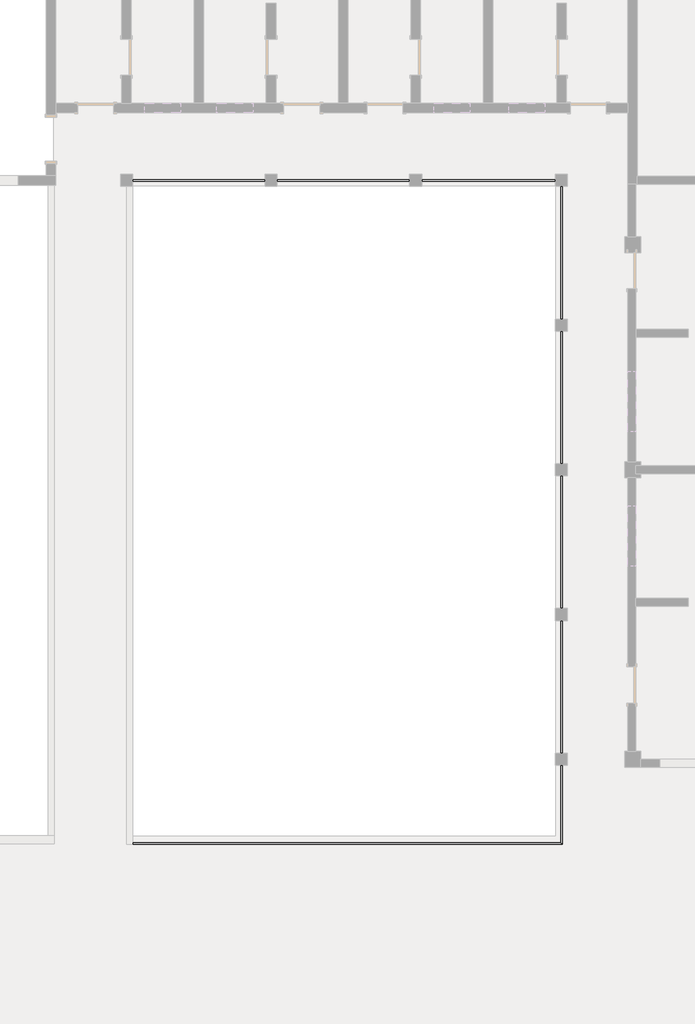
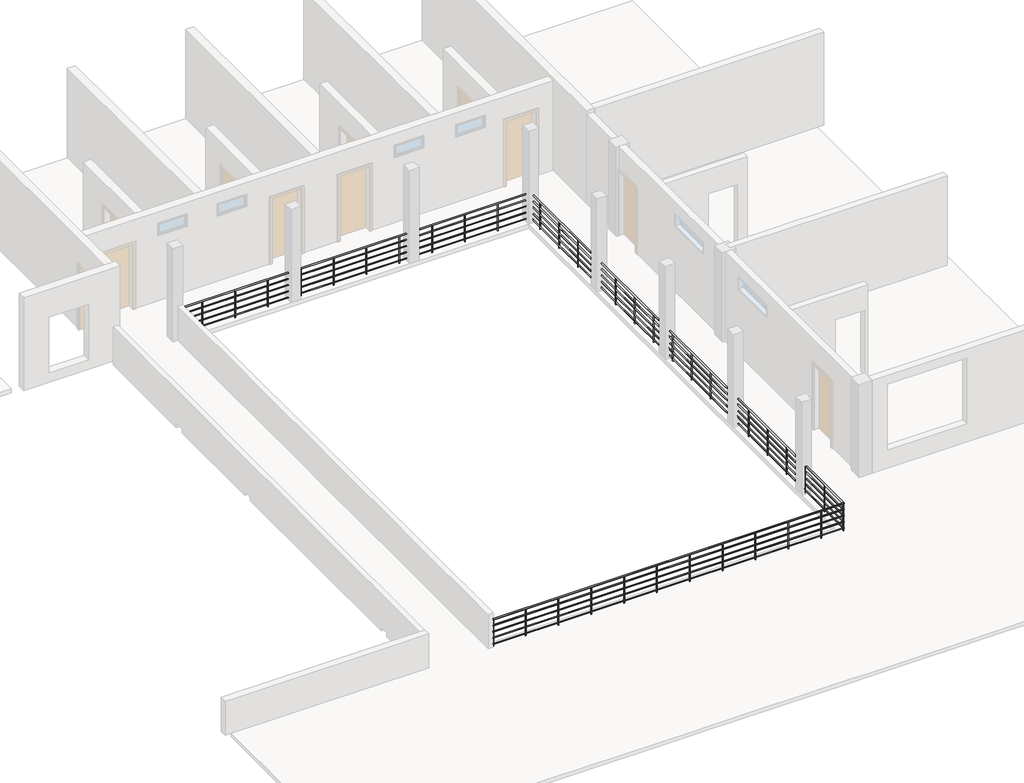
# One storey, part 3 of 3: 1 railing.
"""IFC4 building model written with IfcOpenShell, lengths in millimetres."""

from ifc_helpers import new_model, si_unit, point, frame, frame_2d, origin, place, context, project, spatial, circle_curve, ellipse_curve, trimmed, segment, composite_curve, outline, extrude, element, save
from ifc_brep_helpers import plane_surface, cylinder_surface, advanced_brep

model = new_model("IFC4")

# Units and contexts
model_context = context("Model", 3, world=origin())
ifc_project = project(units=[si_unit("LENGTHUNIT", "METRE", prefix="MILLI")], contexts=[model_context])

# Site, building, storey
site = spatial("IfcSite", under=ifc_project)
building = spatial("IfcBuilding", under=site)
storey = spatial("IfcBuildingStorey", under=building, Name="标高 2", Elevation=4200.0)

# Railing
placement = place(None, origin())
element("IfcRailing", 1, ObjectType="900mm 圆管", at=placement, inside=storey, context=model_context, shape_type="SolidModel", body=[
    advanced_brep(
    [(-913.2622628, 524.1658649, 5080.0), (-913.2622628, 564.1658649, 5080.0), (9786.7377372, 524.1658649, 5080.0), (9746.7377372, 564.1658649, 5080.0), (9786.7377372, 17064.1658649, 5080.0), (9746.7377372, 17024.1658649, 5080.0), (-913.2622628, 17064.1658649, 5080.0), (-913.2622628, 17024.1658649, 5080.0)],
    [
        (0, 1, circle_curve(frame((-913.2622628, 544.1658649, 5080.0), z_axis=(-1.0, 0.0, 0.0), x_axis=(0.0, 1.0, 0.0)), 20.0)),
        (1, 0, circle_curve(frame((-913.2622628, 544.1658649, 5080.0), z_axis=(-1.0, 0.0, 0.0), x_axis=(0.0, 1.0, 0.0)), 20.0)),
        (0, 2),
        (2, 3, ellipse_curve(frame((9766.7377372, 544.1658649, 5080.0), z_axis=(-0.7071067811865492, -0.7071067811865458, 0.0), x_axis=(-0.7071067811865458, 0.7071067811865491, 0.0)), 28.2842712, 20.0)),
        (3, 1),
        (3, 2, ellipse_curve(frame((9766.7377372, 544.1658649, 5080.0), z_axis=(-0.7071067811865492, -0.7071067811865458, 0.0), x_axis=(-0.7071067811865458, 0.7071067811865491, 0.0)), 28.2842712, 20.0)),
        (2, 4),
        (4, 5, ellipse_curve(frame((9766.7377372, 17044.1658649, 5080.0), z_axis=(0.7071067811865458, -0.7071067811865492, 0.0), x_axis=(-0.7071067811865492, -0.7071067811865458, 0.0)), 28.2842712, 20.0)),
        (5, 3),
        (5, 4, ellipse_curve(frame((9766.7377372, 17044.1658649, 5080.0), z_axis=(0.7071067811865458, -0.7071067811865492, 0.0), x_axis=(-0.7071067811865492, -0.7071067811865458, 0.0)), 28.2842712, 20.0)),
        (6, 7, circle_curve(frame((-913.2622628, 17044.1658649, 5080.0), z_axis=(-1.0, 0.0, 0.0), x_axis=(0.0, -1.0, 0.0)), 20.0)),
        (7, 6, circle_curve(frame((-913.2622628, 17044.1658649, 5080.0), z_axis=(-1.0, 0.0, 0.0), x_axis=(0.0, -1.0, 0.0)), 20.0)),
        (4, 6),
        (7, 5),
    ],
    [
        plane_surface(frame((-913.2622628, 544.1658649, 5100.0), z_axis=(-1.0, 0.0, 0.0), x_axis=(0.0, 1.0, 0.0))),
        cylinder_surface(frame((-913.2622628, 544.1658649, 5080.0), z_axis=(-1.0, 0.0, 0.0), x_axis=(0.0, 1.0, 0.0)), 20.0),
        cylinder_surface(frame((9766.7377372, 544.1658649, 5080.0), z_axis=(0.0, -1.0, 0.0), x_axis=(-1.0, 0.0, 0.0)), 20.0),
        plane_surface(frame((-913.2622628, 17044.1658649, 5100.0), z_axis=(-1.0, 0.0, 0.0), x_axis=(0.0, -1.0, 0.0))),
        cylinder_surface(frame((9766.7377372, 17044.1658649, 5080.0), z_axis=(1.0, 0.0, 0.0), x_axis=(0.0, -1.0, 0.0)), 20.0),
    ],
    [
        (0, [[1, 2]]),
        (1, [[-1, 3, 4, 5]]),
        (1, [[-2, -5, 6, -3]]),
        (2, [[-4, 7, 8, 9]]),
        (2, [[-6, -9, 10, -7]]),
        (3, [[11, 12]]),
        (4, [[-8, 13, -12, 14]]),
        (4, [[-10, -14, -11, -13]]),
    ],
),
    advanced_brep(
    [(-913.2622628, 559.1658649, 4885.0), (-913.2622628, 529.1658649, 4885.0), (9751.7377372, 559.1658649, 4885.0), (9781.7377372, 529.1658649, 4885.0), (9751.7377372, 17029.1658649, 4885.0), (9781.7377372, 17059.1658649, 4885.0), (-913.2622628, 17029.1658649, 4885.0), (-913.2622628, 17059.1658649, 4885.0)],
    [
        (0, 1, circle_curve(frame((-913.2622628, 544.1658649, 4885.0), z_axis=(-1.0, 0.0, 0.0), x_axis=(0.0, -1.0, 0.0)), 15.0)),
        (1, 0, circle_curve(frame((-913.2622628, 544.1658649, 4885.0), z_axis=(-1.0, 0.0, 0.0), x_axis=(0.0, -1.0, 0.0)), 15.0)),
        (0, 2),
        (2, 3, ellipse_curve(frame((9766.7377372, 544.1658649, 4885.0), z_axis=(-0.7071067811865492, -0.7071067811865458, 0.0), x_axis=(-0.7071067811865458, 0.7071067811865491, 0.0)), 21.2132034, 15.0)),
        (3, 1),
        (3, 2, ellipse_curve(frame((9766.7377372, 544.1658649, 4885.0), z_axis=(-0.7071067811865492, -0.7071067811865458, 0.0), x_axis=(-0.7071067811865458, 0.7071067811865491, 0.0)), 21.2132034, 15.0)),
        (2, 4),
        (4, 5, ellipse_curve(frame((9766.7377372, 17044.1658649, 4885.0), z_axis=(0.7071067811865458, -0.7071067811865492, 0.0), x_axis=(-0.7071067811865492, -0.7071067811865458, 0.0)), 21.2132034, 15.0)),
        (5, 3),
        (5, 4, ellipse_curve(frame((9766.7377372, 17044.1658649, 4885.0), z_axis=(0.7071067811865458, -0.7071067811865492, 0.0), x_axis=(-0.7071067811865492, -0.7071067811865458, 0.0)), 21.2132034, 15.0)),
        (6, 7, circle_curve(frame((-913.2622628, 17044.1658649, 4885.0), z_axis=(-1.0, 0.0, 0.0), x_axis=(0.0, 1.0, 0.0)), 15.0)),
        (7, 6, circle_curve(frame((-913.2622628, 17044.1658649, 4885.0), z_axis=(-1.0, 0.0, 0.0), x_axis=(0.0, 1.0, 0.0)), 15.0)),
        (4, 6),
        (7, 5),
    ],
    [
        plane_surface(frame((-913.2622628, 544.1658649, 4900.0), z_axis=(-1.0, 0.0, 0.0), x_axis=(0.0, 1.0, 0.0))),
        cylinder_surface(frame((-913.2622628, 544.1658649, 4885.0), z_axis=(-1.0, 0.0, 0.0), x_axis=(0.0, -1.0, 0.0)), 15.0),
        cylinder_surface(frame((9766.7377372, 544.1658649, 4885.0), z_axis=(0.0, -1.0, 0.0), x_axis=(1.0, 0.0, 0.0)), 15.0),
        plane_surface(frame((-913.2622628, 17044.1658649, 4900.0), z_axis=(-1.0, 0.0, 0.0), x_axis=(0.0, -1.0, 0.0))),
        cylinder_surface(frame((9766.7377372, 17044.1658649, 4885.0), z_axis=(1.0, 0.0, 0.0), x_axis=(0.0, 1.0, 0.0)), 15.0),
    ],
    [
        (0, [[1, 2]]),
        (1, [[-1, 3, 4, 5]]),
        (1, [[-2, -5, 6, -3]]),
        (2, [[-4, 7, 8, 9]]),
        (2, [[-6, -9, 10, -7]]),
        (3, [[11, 12]]),
        (4, [[-8, 13, -12, 14]]),
        (4, [[-10, -14, -11, -13]]),
    ],
),
    advanced_brep(
    [(-913.2622628, 559.1658649, 4685.0), (-913.2622628, 529.1658649, 4685.0), (9751.7377372, 559.1658649, 4685.0), (9781.7377372, 529.1658649, 4685.0), (9751.7377372, 17029.1658649, 4685.0), (9781.7377372, 17059.1658649, 4685.0), (-913.2622628, 17029.1658649, 4685.0), (-913.2622628, 17059.1658649, 4685.0)],
    [
        (0, 1, circle_curve(frame((-913.2622628, 544.1658649, 4685.0), z_axis=(-1.0, 0.0, 0.0), x_axis=(0.0, -1.0, 0.0)), 15.0)),
        (1, 0, circle_curve(frame((-913.2622628, 544.1658649, 4685.0), z_axis=(-1.0, 0.0, 0.0), x_axis=(0.0, -1.0, 0.0)), 15.0)),
        (0, 2),
        (2, 3, ellipse_curve(frame((9766.7377372, 544.1658649, 4685.0), z_axis=(-0.7071067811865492, -0.7071067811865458, 0.0), x_axis=(-0.7071067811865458, 0.7071067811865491, 0.0)), 21.2132034, 15.0)),
        (3, 1),
        (3, 2, ellipse_curve(frame((9766.7377372, 544.1658649, 4685.0), z_axis=(-0.7071067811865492, -0.7071067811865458, 0.0), x_axis=(-0.7071067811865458, 0.7071067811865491, 0.0)), 21.2132034, 15.0)),
        (2, 4),
        (4, 5, ellipse_curve(frame((9766.7377372, 17044.1658649, 4685.0), z_axis=(0.7071067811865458, -0.7071067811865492, 0.0), x_axis=(-0.7071067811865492, -0.7071067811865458, 0.0)), 21.2132034, 15.0)),
        (5, 3),
        (5, 4, ellipse_curve(frame((9766.7377372, 17044.1658649, 4685.0), z_axis=(0.7071067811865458, -0.7071067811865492, 0.0), x_axis=(-0.7071067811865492, -0.7071067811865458, 0.0)), 21.2132034, 15.0)),
        (6, 7, circle_curve(frame((-913.2622628, 17044.1658649, 4685.0), z_axis=(-1.0, 0.0, 0.0), x_axis=(0.0, 1.0, 0.0)), 15.0)),
        (7, 6, circle_curve(frame((-913.2622628, 17044.1658649, 4685.0), z_axis=(-1.0, 0.0, 0.0), x_axis=(0.0, 1.0, 0.0)), 15.0)),
        (4, 6),
        (7, 5),
    ],
    [
        plane_surface(frame((-913.2622628, 544.1658649, 4700.0), z_axis=(-1.0, 0.0, 0.0), x_axis=(0.0, 1.0, 0.0))),
        cylinder_surface(frame((-913.2622628, 544.1658649, 4685.0), z_axis=(-1.0, 0.0, 0.0), x_axis=(0.0, -1.0, 0.0)), 15.0),
        cylinder_surface(frame((9766.7377372, 544.1658649, 4685.0), z_axis=(0.0, -1.0, 0.0), x_axis=(1.0, 0.0, 0.0)), 15.0),
        plane_surface(frame((-913.2622628, 17044.1658649, 4700.0), z_axis=(-1.0, 0.0, 0.0), x_axis=(0.0, -1.0, 0.0))),
        cylinder_surface(frame((9766.7377372, 17044.1658649, 4685.0), z_axis=(1.0, 0.0, 0.0), x_axis=(0.0, 1.0, 0.0)), 15.0),
    ],
    [
        (0, [[1, 2]]),
        (1, [[-1, 3, 4, 5]]),
        (1, [[-2, -5, 6, -3]]),
        (2, [[-4, 7, 8, 9]]),
        (2, [[-6, -9, 10, -7]]),
        (3, [[11, 12]]),
        (4, [[-8, 13, -12, 14]]),
        (4, [[-10, -14, -11, -13]]),
    ],
),
    advanced_brep(
    [(-913.2622628, 559.1658649, 4485.0), (-913.2622628, 529.1658649, 4485.0), (9751.7377372, 559.1658649, 4485.0), (9781.7377372, 529.1658649, 4485.0), (9751.7377372, 17029.1658649, 4485.0), (9781.7377372, 17059.1658649, 4485.0), (-913.2622628, 17029.1658649, 4485.0), (-913.2622628, 17059.1658649, 4485.0)],
    [
        (0, 1, circle_curve(frame((-913.2622628, 544.1658649, 4485.0), z_axis=(-1.0, 0.0, 0.0), x_axis=(0.0, -1.0, 0.0)), 15.0)),
        (1, 0, circle_curve(frame((-913.2622628, 544.1658649, 4485.0), z_axis=(-1.0, 0.0, 0.0), x_axis=(0.0, -1.0, 0.0)), 15.0)),
        (0, 2),
        (2, 3, ellipse_curve(frame((9766.7377372, 544.1658649, 4485.0), z_axis=(-0.7071067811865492, -0.7071067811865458, 0.0), x_axis=(-0.7071067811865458, 0.7071067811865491, 0.0)), 21.2132034, 15.0)),
        (3, 1),
        (3, 2, ellipse_curve(frame((9766.7377372, 544.1658649, 4485.0), z_axis=(-0.7071067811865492, -0.7071067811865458, 0.0), x_axis=(-0.7071067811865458, 0.7071067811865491, 0.0)), 21.2132034, 15.0)),
        (2, 4),
        (4, 5, ellipse_curve(frame((9766.7377372, 17044.1658649, 4485.0), z_axis=(0.7071067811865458, -0.7071067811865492, 0.0), x_axis=(-0.7071067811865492, -0.7071067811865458, 0.0)), 21.2132034, 15.0)),
        (5, 3),
        (5, 4, ellipse_curve(frame((9766.7377372, 17044.1658649, 4485.0), z_axis=(0.7071067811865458, -0.7071067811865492, 0.0), x_axis=(-0.7071067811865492, -0.7071067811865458, 0.0)), 21.2132034, 15.0)),
        (6, 7, circle_curve(frame((-913.2622628, 17044.1658649, 4485.0), z_axis=(-1.0, 0.0, 0.0), x_axis=(0.0, 1.0, 0.0)), 15.0)),
        (7, 6, circle_curve(frame((-913.2622628, 17044.1658649, 4485.0), z_axis=(-1.0, 0.0, 0.0), x_axis=(0.0, 1.0, 0.0)), 15.0)),
        (4, 6),
        (7, 5),
    ],
    [
        plane_surface(frame((-913.2622628, 544.1658649, 4500.0), z_axis=(-1.0, 0.0, 0.0), x_axis=(0.0, 1.0, 0.0))),
        cylinder_surface(frame((-913.2622628, 544.1658649, 4485.0), z_axis=(-1.0, 0.0, 0.0), x_axis=(0.0, -1.0, 0.0)), 15.0),
        cylinder_surface(frame((9766.7377372, 544.1658649, 4485.0), z_axis=(0.0, -1.0, 0.0), x_axis=(1.0, 0.0, 0.0)), 15.0),
        plane_surface(frame((-913.2622628, 17044.1658649, 4500.0), z_axis=(-1.0, 0.0, 0.0), x_axis=(0.0, -1.0, 0.0))),
        cylinder_surface(frame((9766.7377372, 17044.1658649, 4485.0), z_axis=(1.0, 0.0, 0.0), x_axis=(0.0, 1.0, 0.0)), 15.0),
    ],
    [
        (0, [[1, 2]]),
        (1, [[-1, 3, 4, 5]]),
        (1, [[-2, -5, 6, -3]]),
        (2, [[-4, 7, 8, 9]]),
        (2, [[-6, -9, 10, -7]]),
        (3, [[11, 12]]),
        (4, [[-8, 13, -12, 14]]),
        (4, [[-10, -14, -11, -13]]),
    ],
),
    advanced_brep(
    [(-913.2622628, 559.1658649, 4285.0), (-913.2622628, 529.1658649, 4285.0), (9751.7377372, 559.1658649, 4285.0), (9781.7377372, 529.1658649, 4285.0), (9751.7377372, 17029.1658649, 4285.0), (9781.7377372, 17059.1658649, 4285.0), (-913.2622628, 17029.1658649, 4285.0), (-913.2622628, 17059.1658649, 4285.0)],
    [
        (0, 1, circle_curve(frame((-913.2622628, 544.1658649, 4285.0), z_axis=(-1.0, 0.0, 0.0), x_axis=(0.0, -1.0, 0.0)), 15.0)),
        (1, 0, circle_curve(frame((-913.2622628, 544.1658649, 4285.0), z_axis=(-1.0, 0.0, 0.0), x_axis=(0.0, -1.0, 0.0)), 15.0)),
        (0, 2),
        (2, 3, ellipse_curve(frame((9766.7377372, 544.1658649, 4285.0), z_axis=(-0.7071067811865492, -0.7071067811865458, 0.0), x_axis=(-0.7071067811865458, 0.7071067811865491, 0.0)), 21.2132034, 15.0)),
        (3, 1),
        (3, 2, ellipse_curve(frame((9766.7377372, 544.1658649, 4285.0), z_axis=(-0.7071067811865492, -0.7071067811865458, 0.0), x_axis=(-0.7071067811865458, 0.7071067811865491, 0.0)), 21.2132034, 15.0)),
        (2, 4),
        (4, 5, ellipse_curve(frame((9766.7377372, 17044.1658649, 4285.0), z_axis=(0.7071067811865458, -0.7071067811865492, 0.0), x_axis=(-0.7071067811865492, -0.7071067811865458, 0.0)), 21.2132034, 15.0)),
        (5, 3),
        (5, 4, ellipse_curve(frame((9766.7377372, 17044.1658649, 4285.0), z_axis=(0.7071067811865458, -0.7071067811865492, 0.0), x_axis=(-0.7071067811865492, -0.7071067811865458, 0.0)), 21.2132034, 15.0)),
        (6, 7, circle_curve(frame((-913.2622628, 17044.1658649, 4285.0), z_axis=(-1.0, 0.0, 0.0), x_axis=(0.0, 1.0, 0.0)), 15.0)),
        (7, 6, circle_curve(frame((-913.2622628, 17044.1658649, 4285.0), z_axis=(-1.0, 0.0, 0.0), x_axis=(0.0, 1.0, 0.0)), 15.0)),
        (4, 6),
        (7, 5),
    ],
    [
        plane_surface(frame((-913.2622628, 544.1658649, 4300.0), z_axis=(-1.0, 0.0, 0.0), x_axis=(0.0, 1.0, 0.0))),
        cylinder_surface(frame((-913.2622628, 544.1658649, 4285.0), z_axis=(-1.0, 0.0, 0.0), x_axis=(0.0, -1.0, 0.0)), 15.0),
        cylinder_surface(frame((9766.7377372, 544.1658649, 4285.0), z_axis=(0.0, -1.0, 0.0), x_axis=(1.0, 0.0, 0.0)), 15.0),
        plane_surface(frame((-913.2622628, 17044.1658649, 4300.0), z_axis=(-1.0, 0.0, 0.0), x_axis=(0.0, -1.0, 0.0))),
        cylinder_surface(frame((9766.7377372, 17044.1658649, 4285.0), z_axis=(1.0, 0.0, 0.0), x_axis=(0.0, 1.0, 0.0)), 15.0),
    ],
    [
        (0, [[1, 2]]),
        (1, [[-1, 3, 4, 5]]),
        (1, [[-2, -5, 6, -3]]),
        (2, [[-4, 7, 8, 9]]),
        (2, [[-6, -9, 10, -7]]),
        (3, [[11, 12]]),
        (4, [[-8, 13, -12, 14]]),
        (4, [[-10, -14, -11, -13]]),
    ],
),
    extrude(outline(composite_curve([segment(trimmed(circle_curve(frame_2d((-233.2622628, 17044.1658649)), 12.5), [point((-233.2622628, 17031.6658649))], [point((-233.2622628, 17056.6658649))], False, "CARTESIAN"), True, "CONTINUOUS"), segment(trimmed(circle_curve(frame_2d((-233.2622628, 17044.1658649)), 12.5), [point((-233.2622628, 17056.6658649))], [point((-233.2622628, 17031.6658649))], False, "CARTESIAN"), True, "CONTINUOUS")], self_intersect=False)), frame((0.0, 0.0, 4200.0), z_axis=(0.0, 0.0, 1.0), x_axis=(1.0, 0.0, 0.0)), (0.0, 0.0, 1.0), 860.0),
    extrude(outline(composite_curve([segment(trimmed(circle_curve(frame_2d((766.7377372, 17044.1658649)), 12.5), [point((766.7377372, 17031.6658649))], [point((766.7377372, 17056.6658649))], False, "CARTESIAN"), True, "CONTINUOUS"), segment(trimmed(circle_curve(frame_2d((766.7377372, 17044.1658649)), 12.5), [point((766.7377372, 17056.6658649))], [point((766.7377372, 17031.6658649))], False, "CARTESIAN"), True, "CONTINUOUS")], self_intersect=False)), frame((0.0, 0.0, 4200.0), z_axis=(0.0, 0.0, 1.0), x_axis=(1.0, 0.0, 0.0)), (0.0, 0.0, 1.0), 860.0),
    extrude(outline(composite_curve([segment(trimmed(circle_curve(frame_2d((1766.7377372, 17044.1658649)), 12.5), [point((1766.7377372, 17031.6658649))], [point((1766.7377372, 17056.6658649))], False, "CARTESIAN"), True, "CONTINUOUS"), segment(trimmed(circle_curve(frame_2d((1766.7377372, 17044.1658649)), 12.5), [point((1766.7377372, 17056.6658649))], [point((1766.7377372, 17031.6658649))], False, "CARTESIAN"), True, "CONTINUOUS")], self_intersect=False)), frame((0.0, 0.0, 4200.0), z_axis=(0.0, 0.0, 1.0), x_axis=(1.0, 0.0, 0.0)), (0.0, 0.0, 1.0), 860.0),
    extrude(outline(composite_curve([segment(trimmed(circle_curve(frame_2d((2766.7377372, 17044.1658649)), 12.5), [point((2766.7377372, 17031.6658649))], [point((2766.7377372, 17056.6658649))], False, "CARTESIAN"), True, "CONTINUOUS"), segment(trimmed(circle_curve(frame_2d((2766.7377372, 17044.1658649)), 12.5), [point((2766.7377372, 17056.6658649))], [point((2766.7377372, 17031.6658649))], False, "CARTESIAN"), True, "CONTINUOUS")], self_intersect=False)), frame((0.0, 0.0, 4200.0), z_axis=(0.0, 0.0, 1.0), x_axis=(1.0, 0.0, 0.0)), (0.0, 0.0, 1.0), 860.0),
    extrude(outline(composite_curve([segment(trimmed(circle_curve(frame_2d((3766.7377372, 17044.1658649)), 12.5), [point((3766.7377372, 17031.6658649))], [point((3766.7377372, 17056.6658649))], False, "CARTESIAN"), True, "CONTINUOUS"), segment(trimmed(circle_curve(frame_2d((3766.7377372, 17044.1658649)), 12.5), [point((3766.7377372, 17056.6658649))], [point((3766.7377372, 17031.6658649))], False, "CARTESIAN"), True, "CONTINUOUS")], self_intersect=False)), frame((0.0, 0.0, 4200.0), z_axis=(0.0, 0.0, 1.0), x_axis=(1.0, 0.0, 0.0)), (0.0, 0.0, 1.0), 860.0),
    extrude(outline(composite_curve([segment(trimmed(circle_curve(frame_2d((4766.7377372, 17044.1658649)), 12.5), [point((4766.7377372, 17031.6658649))], [point((4766.7377372, 17056.6658649))], False, "CARTESIAN"), True, "CONTINUOUS"), segment(trimmed(circle_curve(frame_2d((4766.7377372, 17044.1658649)), 12.5), [point((4766.7377372, 17056.6658649))], [point((4766.7377372, 17031.6658649))], False, "CARTESIAN"), True, "CONTINUOUS")], self_intersect=False)), frame((0.0, 0.0, 4200.0), z_axis=(0.0, 0.0, 1.0), x_axis=(1.0, 0.0, 0.0)), (0.0, 0.0, 1.0), 860.0),
    extrude(outline(composite_curve([segment(trimmed(circle_curve(frame_2d((5766.7377372, 17044.1658649)), 12.5), [point((5766.7377372, 17031.6658649))], [point((5766.7377372, 17056.6658649))], False, "CARTESIAN"), True, "CONTINUOUS"), segment(trimmed(circle_curve(frame_2d((5766.7377372, 17044.1658649)), 12.5), [point((5766.7377372, 17056.6658649))], [point((5766.7377372, 17031.6658649))], False, "CARTESIAN"), True, "CONTINUOUS")], self_intersect=False)), frame((0.0, 0.0, 4200.0), z_axis=(0.0, 0.0, 1.0), x_axis=(1.0, 0.0, 0.0)), (0.0, 0.0, 1.0), 860.0),
    extrude(outline(composite_curve([segment(trimmed(circle_curve(frame_2d((6766.7377372, 17044.1658649)), 12.5), [point((6766.7377372, 17031.6658649))], [point((6766.7377372, 17056.6658649))], False, "CARTESIAN"), True, "CONTINUOUS"), segment(trimmed(circle_curve(frame_2d((6766.7377372, 17044.1658649)), 12.5), [point((6766.7377372, 17056.6658649))], [point((6766.7377372, 17031.6658649))], False, "CARTESIAN"), True, "CONTINUOUS")], self_intersect=False)), frame((0.0, 0.0, 4200.0), z_axis=(0.0, 0.0, 1.0), x_axis=(1.0, 0.0, 0.0)), (0.0, 0.0, 1.0), 860.0),
    extrude(outline(composite_curve([segment(trimmed(circle_curve(frame_2d((7766.7377372, 17044.1658649)), 12.5), [point((7766.7377372, 17031.6658649))], [point((7766.7377372, 17056.6658649))], False, "CARTESIAN"), True, "CONTINUOUS"), segment(trimmed(circle_curve(frame_2d((7766.7377372, 17044.1658649)), 12.5), [point((7766.7377372, 17056.6658649))], [point((7766.7377372, 17031.6658649))], False, "CARTESIAN"), True, "CONTINUOUS")], self_intersect=False)), frame((0.0, 0.0, 4200.0), z_axis=(0.0, 0.0, 1.0), x_axis=(1.0, 0.0, 0.0)), (0.0, 0.0, 1.0), 860.0),
    extrude(outline(composite_curve([segment(trimmed(circle_curve(frame_2d((8766.7377372, 17044.1658649)), 12.5), [point((8766.7377372, 17031.6658649))], [point((8766.7377372, 17056.6658649))], False, "CARTESIAN"), True, "CONTINUOUS"), segment(trimmed(circle_curve(frame_2d((8766.7377372, 17044.1658649)), 12.5), [point((8766.7377372, 17056.6658649))], [point((8766.7377372, 17031.6658649))], False, "CARTESIAN"), True, "CONTINUOUS")], self_intersect=False)), frame((0.0, 0.0, 4200.0), z_axis=(0.0, 0.0, 1.0), x_axis=(1.0, 0.0, 0.0)), (0.0, 0.0, 1.0), 860.0),
    extrude(outline(composite_curve([segment(trimmed(circle_curve(frame_2d((9766.7377372, 16544.1658649)), 12.5), [point((9754.2377372, 16544.1658649))], [point((9779.2377372, 16544.1658649))], False, "CARTESIAN"), True, "CONTINUOUS"), segment(trimmed(circle_curve(frame_2d((9766.7377372, 16544.1658649)), 12.5), [point((9779.2377372, 16544.1658649))], [point((9754.2377372, 16544.1658649))], False, "CARTESIAN"), True, "CONTINUOUS")], self_intersect=False)), frame((0.0, 0.0, 4200.0), z_axis=(0.0, 0.0, 1.0), x_axis=(1.0, 0.0, 0.0)), (0.0, 0.0, 1.0), 860.0),
    extrude(outline(composite_curve([segment(trimmed(circle_curve(frame_2d((9766.7377372, 15544.1658649)), 12.5), [point((9754.2377372, 15544.1658649))], [point((9779.2377372, 15544.1658649))], False, "CARTESIAN"), True, "CONTINUOUS"), segment(trimmed(circle_curve(frame_2d((9766.7377372, 15544.1658649)), 12.5), [point((9779.2377372, 15544.1658649))], [point((9754.2377372, 15544.1658649))], False, "CARTESIAN"), True, "CONTINUOUS")], self_intersect=False)), frame((0.0, 0.0, 4200.0), z_axis=(0.0, 0.0, 1.0), x_axis=(1.0, 0.0, 0.0)), (0.0, 0.0, 1.0), 860.0),
    extrude(outline(composite_curve([segment(trimmed(circle_curve(frame_2d((9766.7377372, 14544.1658649)), 12.5), [point((9754.2377372, 14544.1658649))], [point((9779.2377372, 14544.1658649))], False, "CARTESIAN"), True, "CONTINUOUS"), segment(trimmed(circle_curve(frame_2d((9766.7377372, 14544.1658649)), 12.5), [point((9779.2377372, 14544.1658649))], [point((9754.2377372, 14544.1658649))], False, "CARTESIAN"), True, "CONTINUOUS")], self_intersect=False)), frame((0.0, 0.0, 4200.0), z_axis=(0.0, 0.0, 1.0), x_axis=(1.0, 0.0, 0.0)), (0.0, 0.0, 1.0), 860.0),
    extrude(outline(composite_curve([segment(trimmed(circle_curve(frame_2d((9766.7377372, 13544.1658649)), 12.5), [point((9754.2377372, 13544.1658649))], [point((9779.2377372, 13544.1658649))], False, "CARTESIAN"), True, "CONTINUOUS"), segment(trimmed(circle_curve(frame_2d((9766.7377372, 13544.1658649)), 12.5), [point((9779.2377372, 13544.1658649))], [point((9754.2377372, 13544.1658649))], False, "CARTESIAN"), True, "CONTINUOUS")], self_intersect=False)), frame((0.0, 0.0, 4200.0), z_axis=(0.0, 0.0, 1.0), x_axis=(1.0, 0.0, 0.0)), (0.0, 0.0, 1.0), 860.0),
    extrude(outline(composite_curve([segment(trimmed(circle_curve(frame_2d((9766.7377372, 12544.1658649)), 12.5), [point((9754.2377372, 12544.1658649))], [point((9779.2377372, 12544.1658649))], False, "CARTESIAN"), True, "CONTINUOUS"), segment(trimmed(circle_curve(frame_2d((9766.7377372, 12544.1658649)), 12.5), [point((9779.2377372, 12544.1658649))], [point((9754.2377372, 12544.1658649))], False, "CARTESIAN"), True, "CONTINUOUS")], self_intersect=False)), frame((0.0, 0.0, 4200.0), z_axis=(0.0, 0.0, 1.0), x_axis=(1.0, 0.0, 0.0)), (0.0, 0.0, 1.0), 860.0),
    extrude(outline(composite_curve([segment(trimmed(circle_curve(frame_2d((9766.7377372, 11544.1658649)), 12.5), [point((9754.2377372, 11544.1658649))], [point((9779.2377372, 11544.1658649))], False, "CARTESIAN"), True, "CONTINUOUS"), segment(trimmed(circle_curve(frame_2d((9766.7377372, 11544.1658649)), 12.5), [point((9779.2377372, 11544.1658649))], [point((9754.2377372, 11544.1658649))], False, "CARTESIAN"), True, "CONTINUOUS")], self_intersect=False)), frame((0.0, 0.0, 4200.0), z_axis=(0.0, 0.0, 1.0), x_axis=(1.0, 0.0, 0.0)), (0.0, 0.0, 1.0), 860.0),
    extrude(outline(composite_curve([segment(trimmed(circle_curve(frame_2d((9766.7377372, 10544.1658649)), 12.5), [point((9754.2377372, 10544.1658649))], [point((9779.2377372, 10544.1658649))], False, "CARTESIAN"), True, "CONTINUOUS"), segment(trimmed(circle_curve(frame_2d((9766.7377372, 10544.1658649)), 12.5), [point((9779.2377372, 10544.1658649))], [point((9754.2377372, 10544.1658649))], False, "CARTESIAN"), True, "CONTINUOUS")], self_intersect=False)), frame((0.0, 0.0, 4200.0), z_axis=(0.0, 0.0, 1.0), x_axis=(1.0, 0.0, 0.0)), (0.0, 0.0, 1.0), 860.0),
    extrude(outline(composite_curve([segment(trimmed(circle_curve(frame_2d((9766.7377372, 9544.1658649)), 12.5), [point((9754.2377372, 9544.1658649))], [point((9779.2377372, 9544.1658649))], False, "CARTESIAN"), True, "CONTINUOUS"), segment(trimmed(circle_curve(frame_2d((9766.7377372, 9544.1658649)), 12.5), [point((9779.2377372, 9544.1658649))], [point((9754.2377372, 9544.1658649))], False, "CARTESIAN"), True, "CONTINUOUS")], self_intersect=False)), frame((0.0, 0.0, 4200.0), z_axis=(0.0, 0.0, 1.0), x_axis=(1.0, 0.0, 0.0)), (0.0, 0.0, 1.0), 860.0),
    extrude(outline(composite_curve([segment(trimmed(circle_curve(frame_2d((9766.7377372, 8544.1658649)), 12.5), [point((9754.2377372, 8544.1658649))], [point((9779.2377372, 8544.1658649))], False, "CARTESIAN"), True, "CONTINUOUS"), segment(trimmed(circle_curve(frame_2d((9766.7377372, 8544.1658649)), 12.5), [point((9779.2377372, 8544.1658649))], [point((9754.2377372, 8544.1658649))], False, "CARTESIAN"), True, "CONTINUOUS")], self_intersect=False)), frame((0.0, 0.0, 4200.0), z_axis=(0.0, 0.0, 1.0), x_axis=(1.0, 0.0, 0.0)), (0.0, 0.0, 1.0), 860.0),
    extrude(outline(composite_curve([segment(trimmed(circle_curve(frame_2d((9766.7377372, 7544.1658649)), 12.5), [point((9754.2377372, 7544.1658649))], [point((9779.2377372, 7544.1658649))], False, "CARTESIAN"), True, "CONTINUOUS"), segment(trimmed(circle_curve(frame_2d((9766.7377372, 7544.1658649)), 12.5), [point((9779.2377372, 7544.1658649))], [point((9754.2377372, 7544.1658649))], False, "CARTESIAN"), True, "CONTINUOUS")], self_intersect=False)), frame((0.0, 0.0, 4200.0), z_axis=(0.0, 0.0, 1.0), x_axis=(1.0, 0.0, 0.0)), (0.0, 0.0, 1.0), 860.0),
    extrude(outline(composite_curve([segment(trimmed(circle_curve(frame_2d((9766.7377372, 6544.1658649)), 12.5), [point((9754.2377372, 6544.1658649))], [point((9779.2377372, 6544.1658649))], False, "CARTESIAN"), True, "CONTINUOUS"), segment(trimmed(circle_curve(frame_2d((9766.7377372, 6544.1658649)), 12.5), [point((9779.2377372, 6544.1658649))], [point((9754.2377372, 6544.1658649))], False, "CARTESIAN"), True, "CONTINUOUS")], self_intersect=False)), frame((0.0, 0.0, 4200.0), z_axis=(0.0, 0.0, 1.0), x_axis=(1.0, 0.0, 0.0)), (0.0, 0.0, 1.0), 860.0),
    extrude(outline(composite_curve([segment(trimmed(circle_curve(frame_2d((9766.7377372, 5544.1658649)), 12.5), [point((9754.2377372, 5544.1658649))], [point((9779.2377372, 5544.1658649))], False, "CARTESIAN"), True, "CONTINUOUS"), segment(trimmed(circle_curve(frame_2d((9766.7377372, 5544.1658649)), 12.5), [point((9779.2377372, 5544.1658649))], [point((9754.2377372, 5544.1658649))], False, "CARTESIAN"), True, "CONTINUOUS")], self_intersect=False)), frame((0.0, 0.0, 4200.0), z_axis=(0.0, 0.0, 1.0), x_axis=(1.0, 0.0, 0.0)), (0.0, 0.0, 1.0), 860.0),
    extrude(outline(composite_curve([segment(trimmed(circle_curve(frame_2d((9766.7377372, 4544.1658649)), 12.5), [point((9754.2377372, 4544.1658649))], [point((9779.2377372, 4544.1658649))], False, "CARTESIAN"), True, "CONTINUOUS"), segment(trimmed(circle_curve(frame_2d((9766.7377372, 4544.1658649)), 12.5), [point((9779.2377372, 4544.1658649))], [point((9754.2377372, 4544.1658649))], False, "CARTESIAN"), True, "CONTINUOUS")], self_intersect=False)), frame((0.0, 0.0, 4200.0), z_axis=(0.0, 0.0, 1.0), x_axis=(1.0, 0.0, 0.0)), (0.0, 0.0, 1.0), 860.0),
    extrude(outline(composite_curve([segment(trimmed(circle_curve(frame_2d((9766.7377372, 3544.1658649)), 12.5), [point((9754.2377372, 3544.1658649))], [point((9779.2377372, 3544.1658649))], False, "CARTESIAN"), True, "CONTINUOUS"), segment(trimmed(circle_curve(frame_2d((9766.7377372, 3544.1658649)), 12.5), [point((9779.2377372, 3544.1658649))], [point((9754.2377372, 3544.1658649))], False, "CARTESIAN"), True, "CONTINUOUS")], self_intersect=False)), frame((0.0, 0.0, 4200.0), z_axis=(0.0, 0.0, 1.0), x_axis=(1.0, 0.0, 0.0)), (0.0, 0.0, 1.0), 860.0),
    extrude(outline(composite_curve([segment(trimmed(circle_curve(frame_2d((9766.7377372, 2544.1658649)), 12.5), [point((9754.2377372, 2544.1658649))], [point((9779.2377372, 2544.1658649))], False, "CARTESIAN"), True, "CONTINUOUS"), segment(trimmed(circle_curve(frame_2d((9766.7377372, 2544.1658649)), 12.5), [point((9779.2377372, 2544.1658649))], [point((9754.2377372, 2544.1658649))], False, "CARTESIAN"), True, "CONTINUOUS")], self_intersect=False)), frame((0.0, 0.0, 4200.0), z_axis=(0.0, 0.0, 1.0), x_axis=(1.0, 0.0, 0.0)), (0.0, 0.0, 1.0), 860.0),
    extrude(outline(composite_curve([segment(trimmed(circle_curve(frame_2d((9766.7377372, 1544.1658649)), 12.5), [point((9754.2377372, 1544.1658649))], [point((9779.2377372, 1544.1658649))], False, "CARTESIAN"), True, "CONTINUOUS"), segment(trimmed(circle_curve(frame_2d((9766.7377372, 1544.1658649)), 12.5), [point((9779.2377372, 1544.1658649))], [point((9754.2377372, 1544.1658649))], False, "CARTESIAN"), True, "CONTINUOUS")], self_intersect=False)), frame((0.0, 0.0, 4200.0), z_axis=(0.0, 0.0, 1.0), x_axis=(1.0, 0.0, 0.0)), (0.0, 0.0, 1.0), 860.0),
    extrude(outline(composite_curve([segment(trimmed(circle_curve(frame_2d((9086.7377372, 544.1658649)), 12.5), [point((9086.7377372, 556.6658649))], [point((9086.7377372, 531.6658649))], False, "CARTESIAN"), True, "CONTINUOUS"), segment(trimmed(circle_curve(frame_2d((9086.7377372, 544.1658649)), 12.5), [point((9086.7377372, 531.6658649))], [point((9086.7377372, 556.6658649))], False, "CARTESIAN"), True, "CONTINUOUS")], self_intersect=False)), frame((0.0, 0.0, 4200.0), z_axis=(0.0, 0.0, 1.0), x_axis=(1.0, 0.0, 0.0)), (0.0, 0.0, 1.0), 860.0),
    extrude(outline(composite_curve([segment(trimmed(circle_curve(frame_2d((8086.7377372, 544.1658649)), 12.5), [point((8086.7377372, 556.6658649))], [point((8086.7377372, 531.6658649))], False, "CARTESIAN"), True, "CONTINUOUS"), segment(trimmed(circle_curve(frame_2d((8086.7377372, 544.1658649)), 12.5), [point((8086.7377372, 531.6658649))], [point((8086.7377372, 556.6658649))], False, "CARTESIAN"), True, "CONTINUOUS")], self_intersect=False)), frame((0.0, 0.0, 4200.0), z_axis=(0.0, 0.0, 1.0), x_axis=(1.0, 0.0, 0.0)), (0.0, 0.0, 1.0), 860.0),
    extrude(outline(composite_curve([segment(trimmed(circle_curve(frame_2d((7086.7377372, 544.1658649)), 12.5), [point((7086.7377372, 556.6658649))], [point((7086.7377372, 531.6658649))], False, "CARTESIAN"), True, "CONTINUOUS"), segment(trimmed(circle_curve(frame_2d((7086.7377372, 544.1658649)), 12.5), [point((7086.7377372, 531.6658649))], [point((7086.7377372, 556.6658649))], False, "CARTESIAN"), True, "CONTINUOUS")], self_intersect=False)), frame((0.0, 0.0, 4200.0), z_axis=(0.0, 0.0, 1.0), x_axis=(1.0, 0.0, 0.0)), (0.0, 0.0, 1.0), 860.0),
    extrude(outline(composite_curve([segment(trimmed(circle_curve(frame_2d((6086.7377372, 544.1658649)), 12.5), [point((6086.7377372, 556.6658649))], [point((6086.7377372, 531.6658649))], False, "CARTESIAN"), True, "CONTINUOUS"), segment(trimmed(circle_curve(frame_2d((6086.7377372, 544.1658649)), 12.5), [point((6086.7377372, 531.6658649))], [point((6086.7377372, 556.6658649))], False, "CARTESIAN"), True, "CONTINUOUS")], self_intersect=False)), frame((0.0, 0.0, 4200.0), z_axis=(0.0, 0.0, 1.0), x_axis=(1.0, 0.0, 0.0)), (0.0, 0.0, 1.0), 860.0),
    extrude(outline(composite_curve([segment(trimmed(circle_curve(frame_2d((5086.7377372, 544.1658649)), 12.5), [point((5086.7377372, 556.6658649))], [point((5086.7377372, 531.6658649))], False, "CARTESIAN"), True, "CONTINUOUS"), segment(trimmed(circle_curve(frame_2d((5086.7377372, 544.1658649)), 12.5), [point((5086.7377372, 531.6658649))], [point((5086.7377372, 556.6658649))], False, "CARTESIAN"), True, "CONTINUOUS")], self_intersect=False)), frame((0.0, 0.0, 4200.0), z_axis=(0.0, 0.0, 1.0), x_axis=(1.0, 0.0, 0.0)), (0.0, 0.0, 1.0), 860.0),
    extrude(outline(composite_curve([segment(trimmed(circle_curve(frame_2d((4086.7377372, 544.1658649)), 12.5), [point((4086.7377372, 556.6658649))], [point((4086.7377372, 531.6658649))], False, "CARTESIAN"), True, "CONTINUOUS"), segment(trimmed(circle_curve(frame_2d((4086.7377372, 544.1658649)), 12.5), [point((4086.7377372, 531.6658649))], [point((4086.7377372, 556.6658649))], False, "CARTESIAN"), True, "CONTINUOUS")], self_intersect=False)), frame((0.0, 0.0, 4200.0), z_axis=(0.0, 0.0, 1.0), x_axis=(1.0, 0.0, 0.0)), (0.0, 0.0, 1.0), 860.0),
    extrude(outline(composite_curve([segment(trimmed(circle_curve(frame_2d((3086.7377372, 544.1658649)), 12.5), [point((3086.7377372, 556.6658649))], [point((3086.7377372, 531.6658649))], False, "CARTESIAN"), True, "CONTINUOUS"), segment(trimmed(circle_curve(frame_2d((3086.7377372, 544.1658649)), 12.5), [point((3086.7377372, 531.6658649))], [point((3086.7377372, 556.6658649))], False, "CARTESIAN"), True, "CONTINUOUS")], self_intersect=False)), frame((0.0, 0.0, 4200.0), z_axis=(0.0, 0.0, 1.0), x_axis=(1.0, 0.0, 0.0)), (0.0, 0.0, 1.0), 860.0),
    extrude(outline(composite_curve([segment(trimmed(circle_curve(frame_2d((2086.7377372, 544.1658649)), 12.5), [point((2086.7377372, 556.6658649))], [point((2086.7377372, 531.6658649))], False, "CARTESIAN"), True, "CONTINUOUS"), segment(trimmed(circle_curve(frame_2d((2086.7377372, 544.1658649)), 12.5), [point((2086.7377372, 531.6658649))], [point((2086.7377372, 556.6658649))], False, "CARTESIAN"), True, "CONTINUOUS")], self_intersect=False)), frame((0.0, 0.0, 4200.0), z_axis=(0.0, 0.0, 1.0), x_axis=(1.0, 0.0, 0.0)), (0.0, 0.0, 1.0), 860.0),
    extrude(outline(composite_curve([segment(trimmed(circle_curve(frame_2d((1086.7377372, 544.1658649)), 12.5), [point((1086.7377372, 556.6658649))], [point((1086.7377372, 531.6658649))], False, "CARTESIAN"), True, "CONTINUOUS"), segment(trimmed(circle_curve(frame_2d((1086.7377372, 544.1658649)), 12.5), [point((1086.7377372, 531.6658649))], [point((1086.7377372, 556.6658649))], False, "CARTESIAN"), True, "CONTINUOUS")], self_intersect=False)), frame((0.0, 0.0, 4200.0), z_axis=(0.0, 0.0, 1.0), x_axis=(1.0, 0.0, 0.0)), (0.0, 0.0, 1.0), 860.0),
    extrude(outline(composite_curve([segment(trimmed(circle_curve(frame_2d((86.7377372, 544.1658649)), 12.5), [point((86.7377372, 556.6658649))], [point((86.7377372, 531.6658649))], False, "CARTESIAN"), True, "CONTINUOUS"), segment(trimmed(circle_curve(frame_2d((86.7377372, 544.1658649)), 12.5), [point((86.7377372, 531.6658649))], [point((86.7377372, 556.6658649))], False, "CARTESIAN"), True, "CONTINUOUS")], self_intersect=False)), frame((0.0, 0.0, 4200.0), z_axis=(0.0, 0.0, 1.0), x_axis=(1.0, 0.0, 0.0)), (0.0, 0.0, 1.0), 860.0),
    extrude(outline(composite_curve([segment(trimmed(circle_curve(frame_2d((9766.7377372, 17044.1658649)), 12.5), [point((9754.2377372, 17044.1658649))], [point((9779.2377372, 17044.1658649))], False, "CARTESIAN"), True, "CONTINUOUS"), segment(trimmed(circle_curve(frame_2d((9766.7377372, 17044.1658649)), 12.5), [point((9779.2377372, 17044.1658649))], [point((9754.2377372, 17044.1658649))], False, "CARTESIAN"), True, "CONTINUOUS")], self_intersect=False)), frame((0.0, 0.0, 4200.0), z_axis=(0.0, 0.0, 1.0), x_axis=(1.0, 0.0, 0.0)), (0.0, 0.0, 1.0), 860.0),
    extrude(outline(composite_curve([segment(trimmed(circle_curve(frame_2d((9766.7377372, 544.1658649)), 12.5), [point((9766.7377372, 556.6658649))], [point((9766.7377372, 531.6658649))], False, "CARTESIAN"), True, "CONTINUOUS"), segment(trimmed(circle_curve(frame_2d((9766.7377372, 544.1658649)), 12.5), [point((9766.7377372, 531.6658649))], [point((9766.7377372, 556.6658649))], False, "CARTESIAN"), True, "CONTINUOUS")], self_intersect=False)), frame((0.0, 0.0, 4200.0), z_axis=(0.0, 0.0, 1.0), x_axis=(1.0, 0.0, 0.0)), (0.0, 0.0, 1.0), 860.0),
    extrude(outline(composite_curve([segment(trimmed(circle_curve(frame_2d((-900.7622628, 17044.1658649)), 12.5), [point((-900.7622628, 17031.6658649))], [point((-900.7622628, 17056.6658649))], False, "CARTESIAN"), True, "CONTINUOUS"), segment(trimmed(circle_curve(frame_2d((-900.7622628, 17044.1658649)), 12.5), [point((-900.7622628, 17056.6658649))], [point((-900.7622628, 17031.6658649))], False, "CARTESIAN"), True, "CONTINUOUS")], self_intersect=False)), frame((0.0, 0.0, 4200.0), z_axis=(0.0, 0.0, 1.0), x_axis=(1.0, 0.0, 0.0)), (0.0, 0.0, 1.0), 860.0),
    extrude(outline(composite_curve([segment(trimmed(circle_curve(frame_2d((-900.7622628, 544.1658649)), 12.5), [point((-900.7622628, 556.6658649))], [point((-900.7622628, 531.6658649))], False, "CARTESIAN"), True, "CONTINUOUS"), segment(trimmed(circle_curve(frame_2d((-900.7622628, 544.1658649)), 12.5), [point((-900.7622628, 531.6658649))], [point((-900.7622628, 556.6658649))], False, "CARTESIAN"), True, "CONTINUOUS")], self_intersect=False)), frame((0.0, 0.0, 4200.0), z_axis=(0.0, 0.0, 1.0), x_axis=(1.0, 0.0, 0.0)), (0.0, 0.0, 1.0), 860.0),
])

save(model, "model.ifc")
